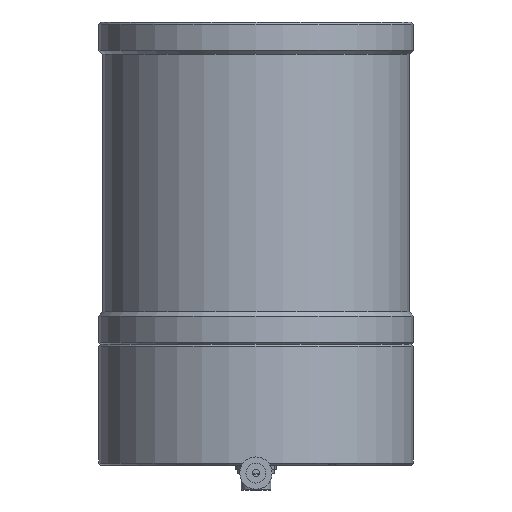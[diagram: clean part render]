
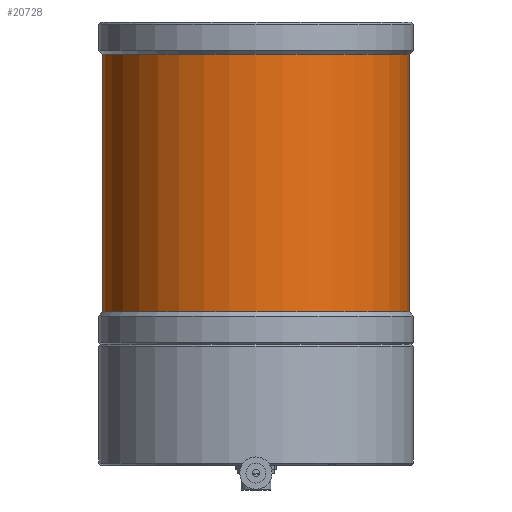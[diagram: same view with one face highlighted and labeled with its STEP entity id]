
A CAD part, front view. The second image highlights one B-rep face of the part: STEP entity #20728.
In plain terms, the highlighted cylindrical face has radius 38 mm (diameter 76 mm), a partial arc.
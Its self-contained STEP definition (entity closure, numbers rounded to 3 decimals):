
#1098 = CARTESIAN_POINT ( 'NONE',  ( 38., 0., 0. ) ) ;
#1808 = CYLINDRICAL_SURFACE ( 'NONE', #43720, 38. ) ;
#4412 = ORIENTED_EDGE ( 'NONE', *, *, #7781, .T. ) ;
#5483 = FACE_OUTER_BOUND ( 'NONE', #32943, .T. ) ;
#5966 = AXIS2_PLACEMENT_3D ( 'NONE', #20405, #13114, #9474 ) ;
#6140 = DIRECTION ( 'NONE',  ( 0., 0., 1. ) ) ;
#6166 = CARTESIAN_POINT ( 'NONE',  ( -38., 0., -72. ) ) ;
#7559 = VERTEX_POINT ( 'NONE', #6166 ) ;
#7781 = EDGE_CURVE ( 'NONE', #19610, #12744, #29474, .T. ) ;
#9474 = DIRECTION ( 'NONE',  ( 1., 0., 0. ) ) ;
#11631 = LINE ( 'NONE', #39507, #35452 ) ;
#12144 = CARTESIAN_POINT ( 'NONE',  ( 0., 0., 0. ) ) ;
#12567 = CARTESIAN_POINT ( 'NONE',  ( 38., 0., -72. ) ) ;
#12719 = ORIENTED_EDGE ( 'NONE', *, *, #40691, .F. ) ;
#12744 = VERTEX_POINT ( 'NONE', #28773 ) ;
#13114 = DIRECTION ( 'NONE',  ( 0., 0., 1. ) ) ;
#16024 = DIRECTION ( 'NONE',  ( -1., 0., 0. ) ) ;
#19610 = VERTEX_POINT ( 'NONE', #12567 ) ;
#20405 = CARTESIAN_POINT ( 'NONE',  ( 0., 0., -72. ) ) ;
#20728 = ADVANCED_FACE ( 'NONE', ( #5483 ), #1808, .T. ) ;
#22141 = DIRECTION ( 'NONE',  ( 0., 0., 1. ) ) ;
#22560 = CARTESIAN_POINT ( 'NONE',  ( -38., 0., -8. ) ) ;
#23192 = EDGE_CURVE ( 'NONE', #7559, #19610, #25721, .T. ) ;
#23756 = CIRCLE ( 'NONE', #38328, 38. ) ;
#25721 = CIRCLE ( 'NONE', #5966, 38. ) ;
#28773 = CARTESIAN_POINT ( 'NONE',  ( 38., 0., -8. ) ) ;
#29474 = LINE ( 'NONE', #1098, #30281 ) ;
#30281 = VECTOR ( 'NONE', #36352, 1000. ) ;
#30365 = DIRECTION ( 'NONE',  ( 0., 0., -1. ) ) ;
#30993 = VERTEX_POINT ( 'NONE', #22560 ) ;
#31631 = ORIENTED_EDGE ( 'NONE', *, *, #35360, .T. ) ;
#32943 = EDGE_LOOP ( 'NONE', ( #35514, #4412, #31631, #12719 ) ) ;
#35360 = EDGE_CURVE ( 'NONE', #12744, #30993, #23756, .T. ) ;
#35452 = VECTOR ( 'NONE', #22141, 1000. ) ;
#35514 = ORIENTED_EDGE ( 'NONE', *, *, #23192, .T. ) ;
#36352 = DIRECTION ( 'NONE',  ( 0., 0., 1. ) ) ;
#38328 = AXIS2_PLACEMENT_3D ( 'NONE', #44495, #30365, #41061 ) ;
#39507 = CARTESIAN_POINT ( 'NONE',  ( -38., 0., 0. ) ) ;
#40691 = EDGE_CURVE ( 'NONE', #7559, #30993, #11631, .T. ) ;
#41061 = DIRECTION ( 'NONE',  ( -1., 0., 0. ) ) ;
#43720 = AXIS2_PLACEMENT_3D ( 'NONE', #12144, #6140, #16024 ) ;
#44495 = CARTESIAN_POINT ( 'NONE',  ( 0., 0., -8. ) ) ;
